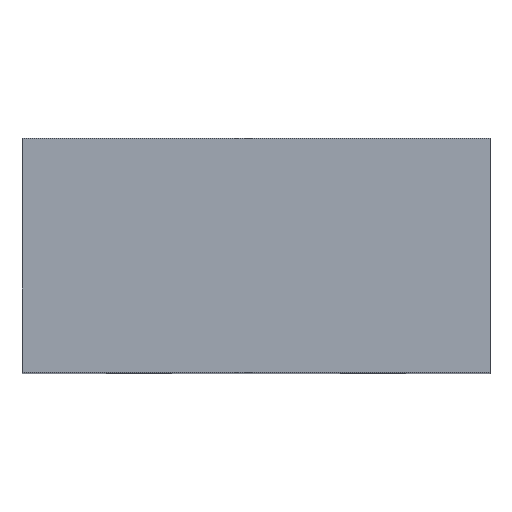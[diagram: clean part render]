
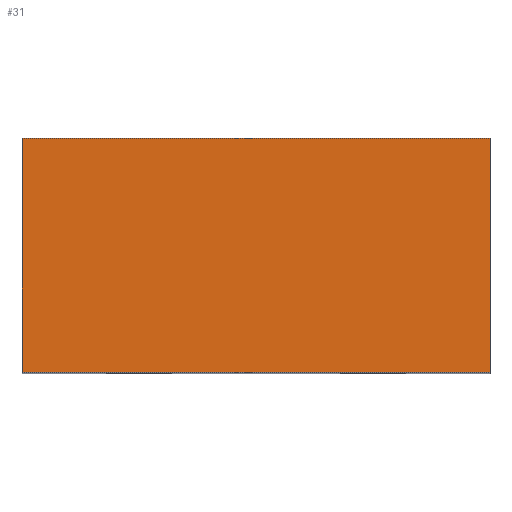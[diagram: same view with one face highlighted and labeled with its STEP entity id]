
A CAD part, top view. The second image highlights one B-rep face of the part: STEP entity #31.
In plain terms, the highlighted planar face has unit normal (0, 0, 1).
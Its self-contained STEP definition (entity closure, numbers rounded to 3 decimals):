
#31=ADVANCED_FACE('',(#47),#513,.T.);
#47=FACE_OUTER_BOUND('',#63,.T.);
#63=EDGE_LOOP('',(#88,#89,#90,#91));
#88=ORIENTED_EDGE('',*,*,#368,.T.);
#89=ORIENTED_EDGE('',*,*,#369,.T.);
#90=ORIENTED_EDGE('',*,*,#370,.T.);
#91=ORIENTED_EDGE('',*,*,#365,.F.);
#185=PCURVE('',#512,#257);
#188=PCURVE('',#513,#260);
#189=PCURVE('',#513,#261);
#190=PCURVE('',#513,#262);
#191=PCURVE('',#513,#263);
#195=PCURVE('',#514,#267);
#202=PCURVE('',#516,#274);
#209=PCURVE('',#517,#281);
#257=DEFINITIONAL_REPRESENTATION('',(#403),#1339);
#260=DEFINITIONAL_REPRESENTATION('',(#409),#1339);
#261=DEFINITIONAL_REPRESENTATION('',(#411),#1339);
#262=DEFINITIONAL_REPRESENTATION('',(#413),#1339);
#263=DEFINITIONAL_REPRESENTATION('',(#414),#1339);
#267=DEFINITIONAL_REPRESENTATION('',(#421),#1339);
#274=DEFINITIONAL_REPRESENTATION('',(#430),#1339);
#281=DEFINITIONAL_REPRESENTATION('',(#437),#1339);
#329=SURFACE_CURVE('',#402,(#185,#191),.PCURVE_S1.);
#332=SURFACE_CURVE('',#408,(#188,#202),.PCURVE_S1.);
#333=SURFACE_CURVE('',#410,(#189,#195),.PCURVE_S1.);
#334=SURFACE_CURVE('',#412,(#190,#209),.PCURVE_S1.);
#365=EDGE_CURVE('',#481,#482,#329,.T.);
#368=EDGE_CURVE('',#481,#484,#332,.T.);
#369=EDGE_CURVE('',#484,#485,#333,.T.);
#370=EDGE_CURVE('',#485,#482,#334,.T.);
#402=B_SPLINE_CURVE_WITH_KNOTS('',1,(#742,#743),.UNSPECIFIED.,.F.,.F.,(2,
2),(0.,20.),.UNSPECIFIED.);
#403=B_SPLINE_CURVE_WITH_KNOTS('',1,(#744,#745),.UNSPECIFIED.,.F.,.F.,(2,
2),(0.,20.),.UNSPECIFIED.);
#408=B_SPLINE_CURVE_WITH_KNOTS('',1,(#754,#755),.UNSPECIFIED.,.F.,.F.,(2,
2),(-143.,-103.),.UNSPECIFIED.);
#409=B_SPLINE_CURVE_WITH_KNOTS('',1,(#756,#757),.UNSPECIFIED.,.F.,.F.,(2,
2),(-143.,-103.),.UNSPECIFIED.);
#410=B_SPLINE_CURVE_WITH_KNOTS('',1,(#758,#759),.UNSPECIFIED.,.F.,.F.,(2,
2),(0.,20.),.UNSPECIFIED.);
#411=B_SPLINE_CURVE_WITH_KNOTS('',1,(#760,#761),.UNSPECIFIED.,.F.,.F.,(2,
2),(0.,20.),.UNSPECIFIED.);
#412=B_SPLINE_CURVE_WITH_KNOTS('',1,(#762,#763),.UNSPECIFIED.,.F.,.F.,(2,
2),(103.,143.),.UNSPECIFIED.);
#413=B_SPLINE_CURVE_WITH_KNOTS('',1,(#764,#765),.UNSPECIFIED.,.F.,.F.,(2,
2),(103.,143.),.UNSPECIFIED.);
#414=B_SPLINE_CURVE_WITH_KNOTS('',1,(#766,#767),.UNSPECIFIED.,.F.,.F.,(2,
2),(0.,20.),.UNSPECIFIED.);
#421=B_SPLINE_CURVE_WITH_KNOTS('',1,(#780,#781),.UNSPECIFIED.,.F.,.F.,(2,
2),(0.,20.),.UNSPECIFIED.);
#430=B_SPLINE_CURVE_WITH_KNOTS('',1,(#798,#799),.UNSPECIFIED.,.F.,.F.,(2,
2),(-143.,-103.),.UNSPECIFIED.);
#437=B_SPLINE_CURVE_WITH_KNOTS('',1,(#1020,#1021),.UNSPECIFIED.,.F.,.F.,
(2,2),(103.,143.),.UNSPECIFIED.);
#481=VERTEX_POINT('',#715);
#482=VERTEX_POINT('',#716);
#484=VERTEX_POINT('',#718);
#485=VERTEX_POINT('',#719);
#512=PLANE('',#540);
#513=PLANE('',#541);
#514=PLANE('',#542);
#516=PLANE('',#544);
#517=PLANE('',#545);
#540=AXIS2_PLACEMENT_3D('',#562,#551,$);
#541=AXIS2_PLACEMENT_3D('',#563,#552,$);
#542=AXIS2_PLACEMENT_3D('',#564,#553,$);
#544=AXIS2_PLACEMENT_3D('',#566,#555,$);
#545=AXIS2_PLACEMENT_3D('',#567,#556,$);
#551=DIRECTION('',(-1.,0.,0.));
#552=DIRECTION('',(0.,0.,1.));
#553=DIRECTION('',(1.,0.,0.));
#555=DIRECTION('',(0.,-1.,0.));
#556=DIRECTION('',(0.,1.,0.));
#562=CARTESIAN_POINT('',(-775.,355.,-20.));
#563=CARTESIAN_POINT('',(-775.,355.,43.));
#564=CARTESIAN_POINT('',(-735.,355.,43.));
#566=CARTESIAN_POINT('',(-735.,355.,-20.));
#567=CARTESIAN_POINT('',(-735.,375.,-20.));
#715=CARTESIAN_POINT('',(-775.,355.,43.));
#716=CARTESIAN_POINT('',(-775.,375.,43.));
#718=CARTESIAN_POINT('',(-735.,355.,43.));
#719=CARTESIAN_POINT('',(-735.,375.,43.));
#742=CARTESIAN_POINT('',(-775.,355.,43.));
#743=CARTESIAN_POINT('',(-775.,375.,43.));
#744=CARTESIAN_POINT('',(-143.,0.));
#745=CARTESIAN_POINT('',(-143.,20.));
#754=CARTESIAN_POINT('',(-775.,355.,43.));
#755=CARTESIAN_POINT('',(-735.,355.,43.));
#756=CARTESIAN_POINT('',(-143.,0.));
#757=CARTESIAN_POINT('',(-103.,0.));
#758=CARTESIAN_POINT('',(-735.,355.,43.));
#759=CARTESIAN_POINT('',(-735.,375.,43.));
#760=CARTESIAN_POINT('',(-103.,0.));
#761=CARTESIAN_POINT('',(-103.,20.));
#762=CARTESIAN_POINT('',(-735.,375.,43.));
#763=CARTESIAN_POINT('',(-775.,375.,43.));
#764=CARTESIAN_POINT('',(-103.,20.));
#765=CARTESIAN_POINT('',(-143.,20.));
#766=CARTESIAN_POINT('',(-143.,0.));
#767=CARTESIAN_POINT('',(-143.,20.));
#780=CARTESIAN_POINT('',(-103.,0.));
#781=CARTESIAN_POINT('',(-103.,20.));
#798=CARTESIAN_POINT('',(63.,0.));
#799=CARTESIAN_POINT('',(63.,-40.));
#1020=CARTESIAN_POINT('',(-40.,63.));
#1021=CARTESIAN_POINT('',(0.,63.));
#1339=(
GEOMETRIC_REPRESENTATION_CONTEXT(2)
PARAMETRIC_REPRESENTATION_CONTEXT()
REPRESENTATION_CONTEXT('pspace','')
);
